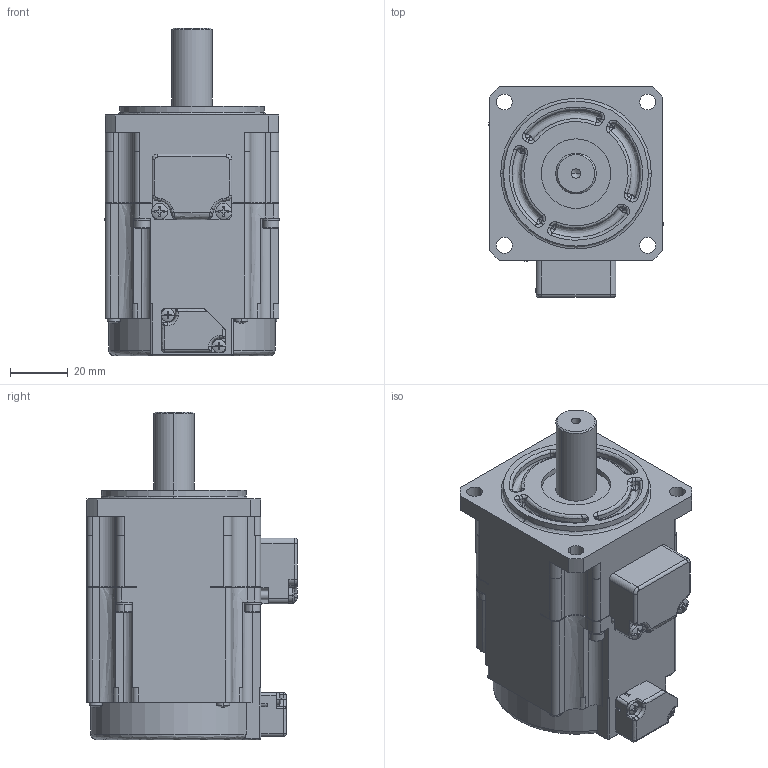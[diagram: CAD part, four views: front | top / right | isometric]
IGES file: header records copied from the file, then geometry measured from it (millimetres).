
Start section:  PTC IGES file: tsm4261n7300_outline.igs
Global section: file name: tsm4261n7300_outline.igs; native system: Creo Parametric by PTC Inc.; preprocessor: 2022484; author: tec1068; organization: Unknown; date: 20240215.095650; units: millimetre
Bounding box: 60.3 x 72.85 x 113.2 mm (x, y, z)
Surface area: 31598.4 mm2 (no closed solid volume)
Topology: 0 solids, 0 shells, 666 faces, 3506 edges, 3504 vertices
Faces by surface type: bspline 340, revolution 326
